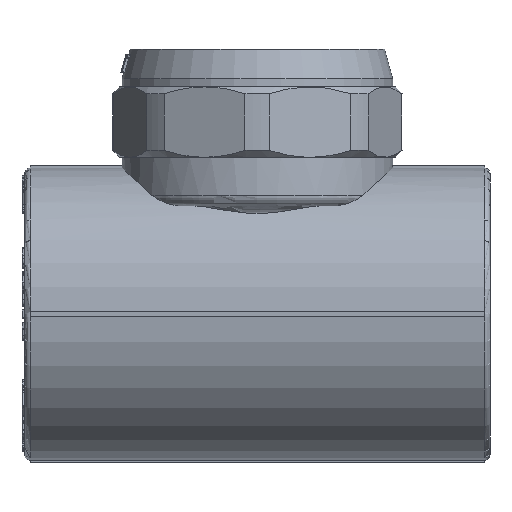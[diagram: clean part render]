
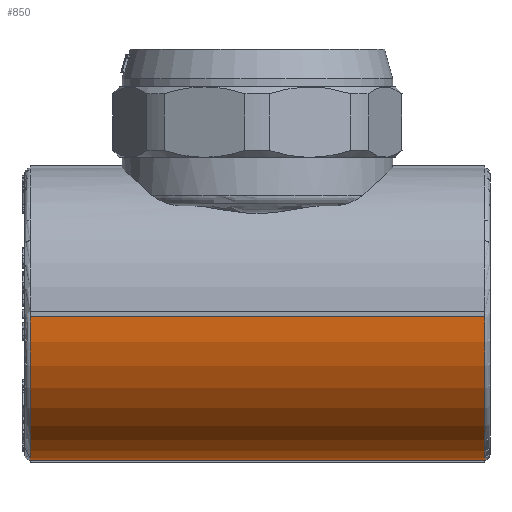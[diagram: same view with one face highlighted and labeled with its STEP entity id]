
A CAD part, left-side view. The second image highlights one B-rep face of the part: STEP entity #850.
In plain terms, the highlighted cylindrical face has radius 27 mm (diameter 54 mm), a partial arc.
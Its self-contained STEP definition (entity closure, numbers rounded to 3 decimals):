
#850=ADVANCED_FACE('',(#5102),#5104,.T.);
#5102=FACE_BOUND('',#5103,.T.);
#5103=EDGE_LOOP('',(#10933,#10934,#10935,#10936));
#5104=CYLINDRICAL_SURFACE('',#5105,27.);
#5105=AXIS2_PLACEMENT_3D('',#5106,#5107,#5108);
#5106=CARTESIAN_POINT('',(0.,-43.,0.));
#5107=DIRECTION('',(0.,1.,0.));
#5108=DIRECTION('',(-1.,0.,0.));
#10933=ORIENTED_EDGE('',*,*,#14204,.F.);
#10934=ORIENTED_EDGE('',*,*,#13328,.T.);
#10935=ORIENTED_EDGE('',*,*,#14205,.F.);
#10936=ORIENTED_EDGE('',*,*,#13335,.F.);
#13328=EDGE_CURVE('',#16301,#16299,#16302,.T.);
#13335=EDGE_CURVE('',#16313,#16315,#16316,.T.);
#14204=EDGE_CURVE('',#16301,#16313,#17628,.T.);
#14205=EDGE_CURVE('',#16315,#16299,#17629,.F.);
#16299=VERTEX_POINT('',#24249);
#16301=VERTEX_POINT('',#24254);
#16302=CIRCLE('',#24255,27.);
#16313=VERTEX_POINT('',#24284);
#16315=VERTEX_POINT('',#24289);
#16316=CIRCLE('',#24290,27.);
#17628=LINE('',#27531,#27532);
#17629=LINE('',#27534,#27535);
#24249=CARTESIAN_POINT('',(-26.995,-42.,-0.5));
#24254=CARTESIAN_POINT('',(-0.5,-42.,-26.995));
#24255=AXIS2_PLACEMENT_3D('',#24256,#24257,#24258);
#24256=CARTESIAN_POINT('',(0.,-42.,0.));
#24257=DIRECTION('',(0.,1.,0.));
#24258=DIRECTION('',(-0.019,0.,-1.));
#24284=CARTESIAN_POINT('',(-0.5,42.,-26.995));
#24289=CARTESIAN_POINT('',(-26.995,42.,-0.5));
#24290=AXIS2_PLACEMENT_3D('',#24291,#24292,#24293);
#24291=CARTESIAN_POINT('',(0.,42.,0.));
#24292=DIRECTION('',(0.,1.,0.));
#24293=DIRECTION('',(-0.019,0.,-1.));
#27531=CARTESIAN_POINT('',(-0.5,-42.,-26.995));
#27532=VECTOR('',#27533,1.);
#27533=DIRECTION('',(0.,1.,0.));
#27534=CARTESIAN_POINT('',(-26.995,-42.,-0.5));
#27535=VECTOR('',#27536,1.);
#27536=DIRECTION('',(0.,1.,0.));
